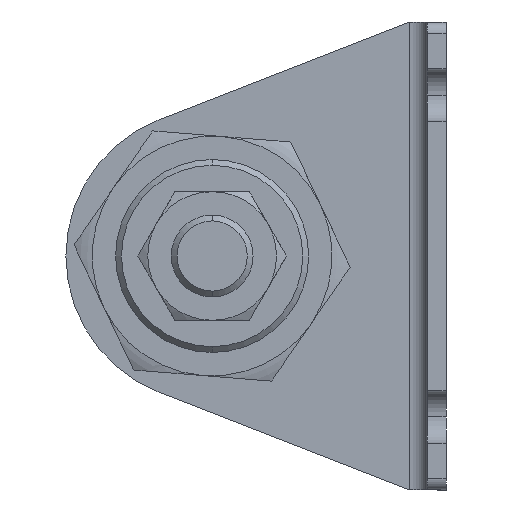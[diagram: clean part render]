
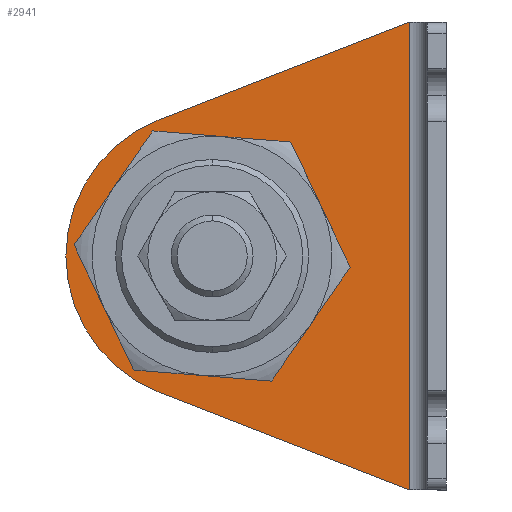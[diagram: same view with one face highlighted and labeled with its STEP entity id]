
A CAD part, left-side view. The second image highlights one B-rep face of the part: STEP entity #2941.
In plain terms, the highlighted planar face has unit normal (-1, 0, 0) as drawn and (1, 0, 0) by its records, which use the part's own axes.
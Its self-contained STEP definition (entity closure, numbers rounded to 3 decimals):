
#164 = CARTESIAN_POINT ( 'NONE',  ( 3.2, 3.595, -81.015 ) ) ;
#203 = VERTEX_POINT ( 'NONE', #360 ) ;
#232 = DIRECTION ( 'NONE',  ( 1., 0., 0. ) ) ;
#303 = EDGE_CURVE ( 'NONE', #2809, #1163, #1861, .T. ) ;
#360 = CARTESIAN_POINT ( 'NONE',  ( 3.2, 49.076, -63.294 ) ) ;
#389 = DIRECTION ( 'NONE',  ( 1., 0., 0. ) ) ;
#401 = EDGE_CURVE ( 'NONE', #3238, #203, #430, .T. ) ;
#404 = DIRECTION ( 'NONE',  ( 1., 0., 0. ) ) ;
#420 = AXIS2_PLACEMENT_3D ( 'NONE', #1764, #2745, #3415 ) ;
#430 = LINE ( 'NONE', #164, #1387 ) ;
#460 = DIRECTION ( 'NONE',  ( 0., 1., 0. ) ) ;
#690 = ORIENTED_EDGE ( 'NONE', *, *, #401, .T. ) ;
#740 = AXIS2_PLACEMENT_3D ( 'NONE', #1539, #232, #2219 ) ;
#809 = CARTESIAN_POINT ( 'NONE',  ( 3.2, 6.2, -80. ) ) ;
#858 = CARTESIAN_POINT ( 'NONE',  ( 3.2, 65., -40. ) ) ;
#1059 = EDGE_CURVE ( 'NONE', #2004, #2379, #3363, .T. ) ;
#1078 = CARTESIAN_POINT ( 'NONE',  ( 3.2, 30.657, -9.529 ) ) ;
#1118 = ORIENTED_EDGE ( 'NONE', *, *, #3609, .T. ) ;
#1162 = FACE_BOUND ( 'NONE', #3149, .T. ) ;
#1163 = VERTEX_POINT ( 'NONE', #3501 ) ;
#1380 = CIRCLE ( 'NONE', #420, 25. ) ;
#1387 = VECTOR ( 'NONE', #3444, 1000. ) ;
#1513 = PLANE ( 'NONE',  #740 ) ;
#1518 = EDGE_LOOP ( 'NONE', ( #690, #2981, #3090, #3650, #1118 ) ) ;
#1539 = CARTESIAN_POINT ( 'NONE',  ( 3.2, 3.2, -80. ) ) ;
#1584 = DIRECTION ( 'NONE',  ( 0., 1., 0. ) ) ;
#1632 = LINE ( 'NONE', #3843, #3553 ) ;
#1764 = CARTESIAN_POINT ( 'NONE',  ( 3.2, 40., -40. ) ) ;
#1861 = CIRCLE ( 'NONE', #2101, 16.5 ) ;
#1921 = ORIENTED_EDGE ( 'NONE', *, *, #3616, .F. ) ;
#2004 = VERTEX_POINT ( 'NONE', #3525 ) ;
#2049 = CARTESIAN_POINT ( 'NONE',  ( 3.2, 56.5, -40. ) ) ;
#2088 = EDGE_CURVE ( 'NONE', #4137, #2379, #1380, .T. ) ;
#2101 = AXIS2_PLACEMENT_3D ( 'NONE', #3731, #404, #460 ) ;
#2116 = DIRECTION ( 'NONE',  ( 0., 0.932, -0.363 ) ) ;
#2219 = DIRECTION ( 'NONE',  ( 0., 1., 0. ) ) ;
#2277 = VECTOR ( 'NONE', #2116, 1000. ) ;
#2379 = VERTEX_POINT ( 'NONE', #3059 ) ;
#2545 = AXIS2_PLACEMENT_3D ( 'NONE', #3659, #389, #3638 ) ;
#2745 = DIRECTION ( 'NONE',  ( 1., 0., 0. ) ) ;
#2809 = VERTEX_POINT ( 'NONE', #2049 ) ;
#2941 = ADVANCED_FACE ( 'NONE', ( #1162, #3706 ), #1513, .T. ) ;
#2960 = AXIS2_PLACEMENT_3D ( 'NONE', #3918, #2989, #1584 ) ;
#2981 = ORIENTED_EDGE ( 'NONE', *, *, #3164, .T. ) ;
#2989 = DIRECTION ( 'NONE',  ( 1., 0., 0. ) ) ;
#3059 = CARTESIAN_POINT ( 'NONE',  ( 3.2, 49.076, -16.706 ) ) ;
#3090 = ORIENTED_EDGE ( 'NONE', *, *, #2088, .T. ) ;
#3142 = ORIENTED_EDGE ( 'NONE', *, *, #303, .F. ) ;
#3149 = EDGE_LOOP ( 'NONE', ( #3142, #1921 ) ) ;
#3164 = EDGE_CURVE ( 'NONE', #203, #4137, #3188, .T. ) ;
#3188 = CIRCLE ( 'NONE', #2545, 25. ) ;
#3238 = VERTEX_POINT ( 'NONE', #809 ) ;
#3363 = LINE ( 'NONE', #1078, #2277 ) ;
#3415 = DIRECTION ( 'NONE',  ( 0., 1., 0. ) ) ;
#3444 = DIRECTION ( 'NONE',  ( 0., 0.932, 0.363 ) ) ;
#3501 = CARTESIAN_POINT ( 'NONE',  ( 3.2, 23.5, -40. ) ) ;
#3525 = CARTESIAN_POINT ( 'NONE',  ( 3.2, 6.2, 0. ) ) ;
#3553 = VECTOR ( 'NONE', #4198, 1000. ) ;
#3609 = EDGE_CURVE ( 'NONE', #2004, #3238, #1632, .T. ) ;
#3616 = EDGE_CURVE ( 'NONE', #1163, #2809, #3656, .T. ) ;
#3638 = DIRECTION ( 'NONE',  ( 0., 1., 0. ) ) ;
#3650 = ORIENTED_EDGE ( 'NONE', *, *, #1059, .F. ) ;
#3656 = CIRCLE ( 'NONE', #2960, 16.5 ) ;
#3659 = CARTESIAN_POINT ( 'NONE',  ( 3.2, 40., -40. ) ) ;
#3706 = FACE_OUTER_BOUND ( 'NONE', #1518, .T. ) ;
#3731 = CARTESIAN_POINT ( 'NONE',  ( 3.2, 40., -40. ) ) ;
#3843 = CARTESIAN_POINT ( 'NONE',  ( 3.2, 6.2, -80. ) ) ;
#3918 = CARTESIAN_POINT ( 'NONE',  ( 3.2, 40., -40. ) ) ;
#4137 = VERTEX_POINT ( 'NONE', #858 ) ;
#4198 = DIRECTION ( 'NONE',  ( 0., 0., -1. ) ) ;
